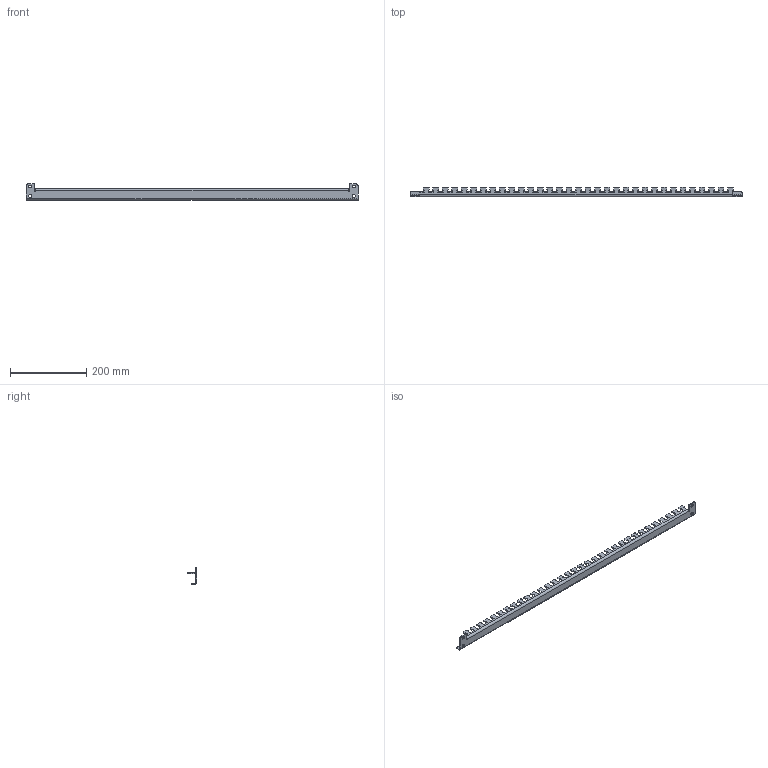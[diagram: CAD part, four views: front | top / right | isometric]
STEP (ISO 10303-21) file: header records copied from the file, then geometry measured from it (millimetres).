
FILE_DESCRIPTION (( 'STEP AP203' ), '1' );
FILE_NAME ('MG 100 Ðåéêà ãîðèçîíòàëüíàÿ íèæíÿÿ.STEP', '2012-11-26T12:19:17', ( 'system' ), ( '' ), 'SwSTEP 2.0', 'SolidWorks 2012', '' );
FILE_SCHEMA (( 'CONFIG_CONTROL_DESIGN' ));
Length unit declared in the file: millimetre
Products named in the file (1): MG 100 Ðåéêà ãîðèçîíòàëüíàÿ íèæíÿÿ
Bounding box: 872.5 x 25 x 42.53 mm (x, y, z)
Volume: 116653.3 mm3; surface area: 101281.9 mm2
Topology: 1 solids, 1 shells, 577 faces, 1709 edges, 1134 vertices
Faces by surface type: plane 292, cylinder 283, bspline 2
Entity records: 19528 total; most frequent: CARTESIAN_POINT 3457, DIRECTION 3419, ORIENTED_EDGE 3418, EDGE_CURVE 1709, AXIS2_PLACEMENT_3D 1142, VECTOR 1135, LINE 1135, VERTEX_POINT 1134
